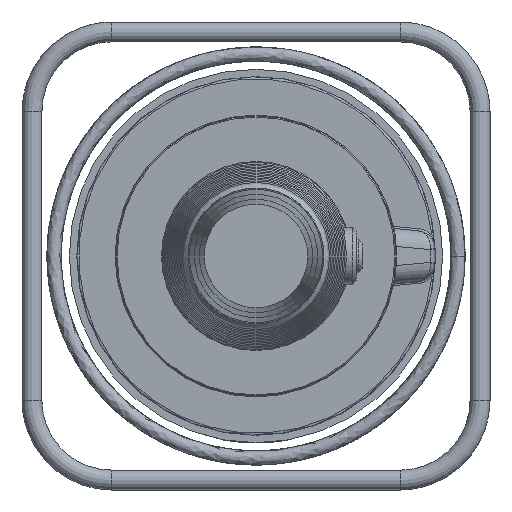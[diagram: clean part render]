
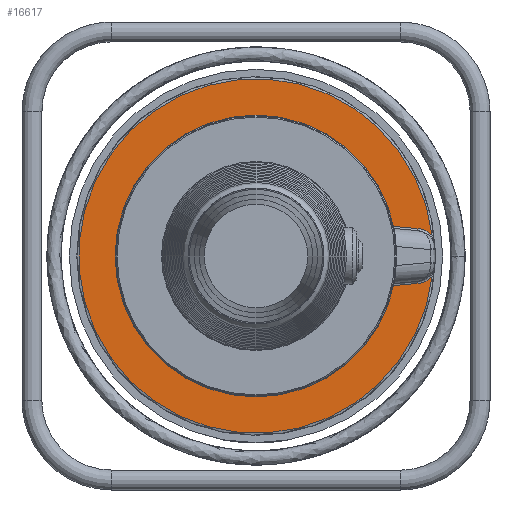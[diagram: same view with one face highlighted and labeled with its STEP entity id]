
A CAD part, left-side view. The second image highlights one B-rep face of the part: STEP entity #16617.
In plain terms, the highlighted planar face has unit normal (-1, 0, 0).
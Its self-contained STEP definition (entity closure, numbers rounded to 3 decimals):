
#1577=PLANE('',#17511);
#2492=LINE('',#37652,#3409);
#2493=LINE('',#37659,#3410);
#3409=VECTOR('',#20174,49.309);
#3410=VECTOR('',#20181,49.309);
#4570=FACE_OUTER_BOUND('',#5665,.T.);
#5665=EDGE_LOOP('',(#14543,#14544,#14545,#14546,#14547,#14548,#14549,#14550));
#6455=CIRCLE('',#17512,21.);
#6456=CIRCLE('',#17513,178.);
#6457=CIRCLE('',#17514,21.);
#6458=CIRCLE('',#17515,8.);
#6459=CIRCLE('',#17516,113.);
#6460=CIRCLE('',#17517,8.);
#8053=VERTEX_POINT('',#37644);
#8054=VERTEX_POINT('',#37645);
#8055=VERTEX_POINT('',#37647);
#8056=VERTEX_POINT('',#37649);
#8057=VERTEX_POINT('',#37651);
#8058=VERTEX_POINT('',#37653);
#8059=VERTEX_POINT('',#37655);
#8060=VERTEX_POINT('',#37657);
#10302=EDGE_CURVE('',#8053,#8054,#6455,.T.);
#10303=EDGE_CURVE('',#8055,#8053,#6456,.T.);
#10304=EDGE_CURVE('',#8056,#8055,#6457,.T.);
#10305=EDGE_CURVE('',#8057,#8056,#2492,.T.);
#10306=EDGE_CURVE('',#8058,#8057,#6458,.T.);
#10307=EDGE_CURVE('',#8059,#8058,#6459,.T.);
#10308=EDGE_CURVE('',#8060,#8059,#6460,.T.);
#10309=EDGE_CURVE('',#8054,#8060,#2493,.T.);
#14543=ORIENTED_EDGE('',*,*,#10302,.F.);
#14544=ORIENTED_EDGE('',*,*,#10303,.F.);
#14545=ORIENTED_EDGE('',*,*,#10304,.F.);
#14546=ORIENTED_EDGE('',*,*,#10305,.F.);
#14547=ORIENTED_EDGE('',*,*,#10306,.F.);
#14548=ORIENTED_EDGE('',*,*,#10307,.F.);
#14549=ORIENTED_EDGE('',*,*,#10308,.F.);
#14550=ORIENTED_EDGE('',*,*,#10309,.F.);
#16617=ADVANCED_FACE('',(#4570),#1577,.T.);
#17511=AXIS2_PLACEMENT_3D('',#37643,#20166,#20167);
#17512=AXIS2_PLACEMENT_3D('',#37646,#20168,#20169);
#17513=AXIS2_PLACEMENT_3D('',#37648,#20170,#20171);
#17514=AXIS2_PLACEMENT_3D('',#37650,#20172,#20173);
#17515=AXIS2_PLACEMENT_3D('',#37654,#20175,#20176);
#17516=AXIS2_PLACEMENT_3D('',#37656,#20177,#20178);
#17517=AXIS2_PLACEMENT_3D('',#37658,#20179,#20180);
#20166=DIRECTION('center_axis',(-1.,0.,0.));
#20167=DIRECTION('ref_axis',(0.,0.,-1.));
#20168=DIRECTION('center_axis',(-1.,0.,0.));
#20169=DIRECTION('ref_axis',(0.,-0.535,0.845));
#20170=DIRECTION('center_axis',(1.,0.,0.));
#20171=DIRECTION('ref_axis',(0.,1.,0.));
#20172=DIRECTION('center_axis',(-1.,0.,0.));
#20173=DIRECTION('ref_axis',(0.,-0.535,-0.845));
#20174=DIRECTION('',(0.,-0.996,0.087));
#20175=DIRECTION('center_axis',(1.,0.,0.));
#20176=DIRECTION('ref_axis',(0.,0.614,0.789));
#20177=DIRECTION('center_axis',(-1.,0.,0.));
#20178=DIRECTION('ref_axis',(0.,1.,0.));
#20179=DIRECTION('center_axis',(1.,0.,0.));
#20180=DIRECTION('ref_axis',(0.,0.614,-0.789));
#20181=DIRECTION('',(0.,0.996,0.087));
#37643=CARTESIAN_POINT('Origin',(-155.,179.,0.));
#37644=CARTESIAN_POINT('',(-155.,-176.847,20.223));
#37645=CARTESIAN_POINT('',(-155.,-162.695,27.522));
#37646=CARTESIAN_POINT('Origin',(-155.,-160.865,6.602));
#37647=CARTESIAN_POINT('',(-155.,-176.847,-20.223));
#37648=CARTESIAN_POINT('Origin',(-155.,0.,
0.));
#37649=CARTESIAN_POINT('',(-155.,-162.695,-27.522));
#37650=CARTESIAN_POINT('Origin',(-155.,-160.865,-6.602));
#37651=CARTESIAN_POINT('',(-155.,-113.574,-31.819));
#37652=CARTESIAN_POINT('',(-155.,20.898,-43.584));
#37653=CARTESIAN_POINT('',(-155.,-106.716,-37.158));
#37654=CARTESIAN_POINT('Origin',(-155.,-114.271,-39.789));
#37655=CARTESIAN_POINT('',(-155.,-106.716,37.158));
#37656=CARTESIAN_POINT('Origin',(-155.,0.,
0.));
#37657=CARTESIAN_POINT('',(-155.,-113.574,31.819));
#37658=CARTESIAN_POINT('Origin',(-155.,-114.271,39.789));
#37659=CARTESIAN_POINT('',(-155.,20.898,43.584));
